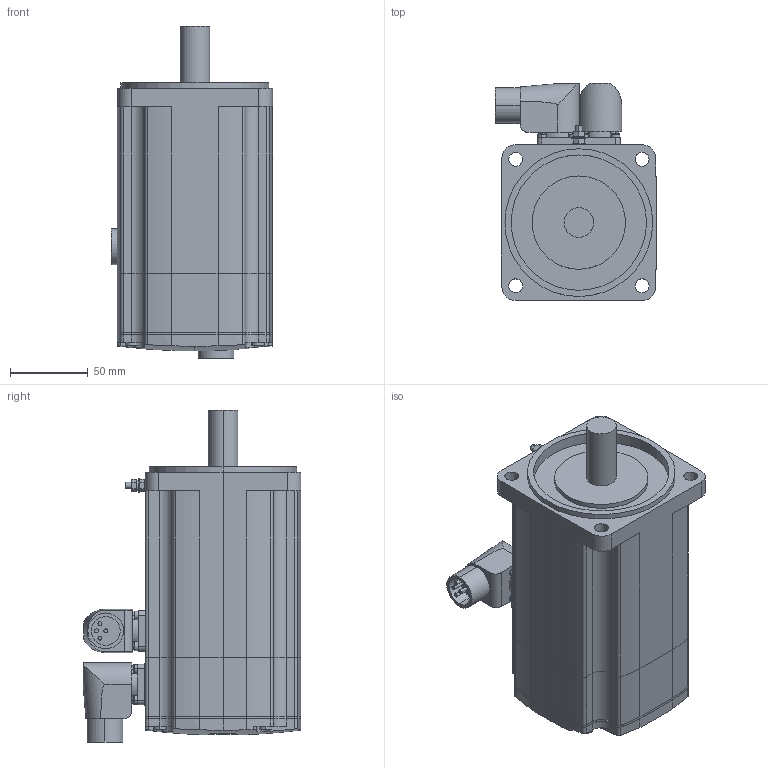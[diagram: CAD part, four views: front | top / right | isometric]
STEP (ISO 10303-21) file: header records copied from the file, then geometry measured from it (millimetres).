
FILE_DESCRIPTION (( 'STEP AP214' ), '1' );
FILE_NAME ('SH31001x0xA2100.STEP', '2013-11-29T09:04:40', ( 'Windows User' ), ( 'Schneider-Electric' ), 'SwSTEP 2.0', 'SolidWorks 2010', '' );
FILE_SCHEMA (( 'AUTOMOTIVE_DESIGN' ));
Length unit declared in the file: millimetre
Products named in the file (8): 1-100005292_DECKEL SH3-100X-X_VM0_Deckel SH3-100x; 1-100010978_K-FLACHDICHTUNG BMH-MH3-100_000; 1-100008869_LAGERSCHILD-SH3-100X-A_VM0_Lagerschild-SH3-100x-A; 1-100008871_TOPFGEHÄUSE-SH3-100X_VM0_TOPFGEHÄUSE BSH1001-A ohne Passfeder; 1-100011011_K-ERDUNGSBOLZEN M4_000; K-POWER-CONINVERS-ABGEWIN_POWER-CONINVERS-ABGEWINKELT_000_ohne Bremse; K-ENCODER-CONINVERS-ABGEW_ENCODER-CONINVERS-ABGEWINKELT_000_Single- MultiTurn; SH31001x0xA2100
Assembly tree (7 placements, depth 2):
  SH31001x0xA2100
    1-100010978_K-FLACHDICHTUNG BMH-MH3-100_000
    1-100011011_K-ERDUNGSBOLZEN M4_000
    1-100005292_DECKEL SH3-100X-X_VM0_Deckel SH3-100x
    K-ENCODER-CONINVERS-ABGEW_ENCODER-CONINVERS-ABGEWINKELT_000_Single- MultiTurn
    1-100008869_LAGERSCHILD-SH3-100X-A_VM0_Lagerschild-SH3-100x-A
    1-100008871_TOPFGEHÄUSE-SH3-100X_VM0_TOPFGEHÄUSE BSH1001-A ohne Passfeder
    K-POWER-CONINVERS-ABGEWIN_POWER-CONINVERS-ABGEWINKELT_000_ohne Bremse
Bounding box: 103.65 x 139.9 x 213.45 mm (x, y, z)
Volume: 1529953.5 mm3; surface area: 157131.5 mm2
Topology: 7 solids, 7 shells, 434 faces, 1073 edges, 702 vertices
Faces by surface type: cylinder 223, plane 187, torus 16, sphere 4, bspline 4
Entity records: 14442 total; most frequent: CARTESIAN_POINT 3433, DIRECTION 2396, ORIENTED_EDGE 2146, EDGE_CURVE 1073, AXIS2_PLACEMENT_3D 933, VERTEX_POINT 702, LINE 530, VECTOR 530
